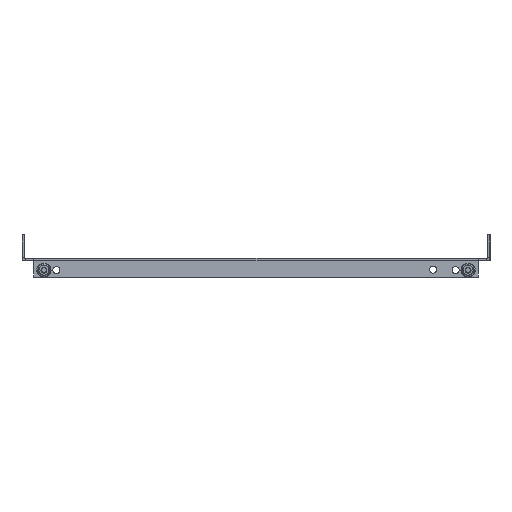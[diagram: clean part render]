
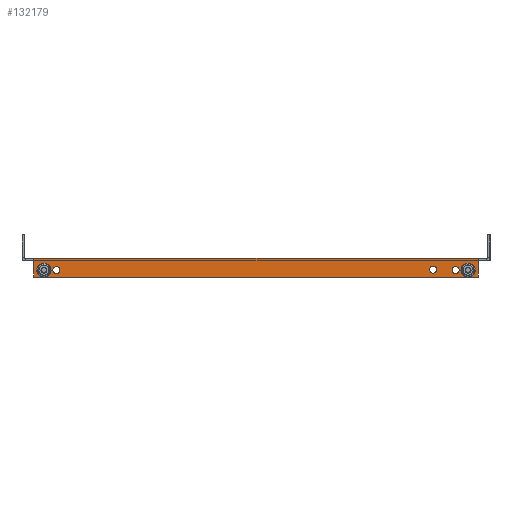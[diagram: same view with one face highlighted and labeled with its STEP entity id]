
A CAD part, left-side view. The second image highlights one B-rep face of the part: STEP entity #132179.
In plain terms, the highlighted planar face has unit normal (-1, 0, 0).
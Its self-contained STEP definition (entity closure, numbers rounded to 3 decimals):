
#115914 = VERTEX_POINT('',#115915);
#115915 = CARTESIAN_POINT('',(-550.,222.5,2.5));
#115921 = EDGE_CURVE('',#115922,#115914,#115924,.T.);
#115922 = VERTEX_POINT('',#115923);
#115923 = CARTESIAN_POINT('',(-550.,-222.5,2.5));
#115924 = LINE('',#115925,#115926);
#115925 = CARTESIAN_POINT('',(-550.,-232.,2.5));
#115926 = VECTOR('',#115927,1.);
#115927 = DIRECTION('',(-0.,1.,-0.));
#132058 = VERTEX_POINT('',#132059);
#132059 = CARTESIAN_POINT('',(-550.,-222.5,-0.6));
#132074 = EDGE_CURVE('',#132058,#115922,#132075,.T.);
#132075 = LINE('',#132076,#132077);
#132076 = CARTESIAN_POINT('',(-550.,-222.5,-0.6));
#132077 = VECTOR('',#132078,1.);
#132078 = DIRECTION('',(0.,-0.,1.));
#132098 = VERTEX_POINT('',#132099);
#132099 = CARTESIAN_POINT('',(-550.,222.5,-0.6));
#132105 = EDGE_CURVE('',#132098,#115914,#132106,.T.);
#132106 = LINE('',#132107,#132108);
#132107 = CARTESIAN_POINT('',(-550.,222.5,0.));
#132108 = VECTOR('',#132109,1.);
#132109 = DIRECTION('',(0.,0.,1.));
#132121 = EDGE_CURVE('',#132122,#132098,#132124,.T.);
#132122 = VERTEX_POINT('',#132123);
#132123 = CARTESIAN_POINT('',(-550.,222.5,-16.5));
#132124 = LINE('',#132125,#132126);
#132125 = CARTESIAN_POINT('',(-550.,222.5,0.));
#132126 = VECTOR('',#132127,1.);
#132127 = DIRECTION('',(0.,-0.,1.));
#132161 = EDGE_CURVE('',#132058,#132162,#132164,.T.);
#132162 = VERTEX_POINT('',#132163);
#132163 = CARTESIAN_POINT('',(-550.,-222.5,-16.5));
#132164 = LINE('',#132165,#132166);
#132165 = CARTESIAN_POINT('',(-550.,-222.5,-16.5));
#132166 = VECTOR('',#132167,1.);
#132167 = DIRECTION('',(0.,-0.,-1.));
#132179 = ADVANCED_FACE('',(#132180,#132191,#132211,#132231,#132242,
    #132253),#132266,.T.);
#132180 = FACE_BOUND('',#132181,.T.);
#132181 = EDGE_LOOP('',(#132182));
#132182 = ORIENTED_EDGE('',*,*,#132183,.T.);
#132183 = EDGE_CURVE('',#132184,#132184,#132186,.T.);
#132184 = VERTEX_POINT('',#132185);
#132185 = CARTESIAN_POINT('',(-550.,-177.5,-12.5));
#132186 = CIRCLE('',#132187,3.5);
#132187 = AXIS2_PLACEMENT_3D('',#132188,#132189,#132190);
#132188 = CARTESIAN_POINT('',(-550.,-177.5,-9.));
#132189 = DIRECTION('',(1.,0.,0.));
#132190 = DIRECTION('',(0.,-0.,-1.));
#132191 = FACE_BOUND('',#132192,.T.);
#132192 = EDGE_LOOP('',(#132193,#132204));
#132193 = ORIENTED_EDGE('',*,*,#132194,.F.);
#132194 = EDGE_CURVE('',#132195,#132197,#132199,.T.);
#132195 = VERTEX_POINT('',#132196);
#132196 = CARTESIAN_POINT('',(-550.,-212.5,-13.));
#132197 = VERTEX_POINT('',#132198);
#132198 = CARTESIAN_POINT('',(-550.,-212.5,-6.));
#132199 = CIRCLE('',#132200,3.5);
#132200 = AXIS2_PLACEMENT_3D('',#132201,#132202,#132203);
#132201 = CARTESIAN_POINT('',(-550.,-212.5,-9.5));
#132202 = DIRECTION('',(-1.,0.,0.));
#132203 = DIRECTION('',(0.,0.,-1.));
#132204 = ORIENTED_EDGE('',*,*,#132205,.F.);
#132205 = EDGE_CURVE('',#132197,#132195,#132206,.T.);
#132206 = CIRCLE('',#132207,3.5);
#132207 = AXIS2_PLACEMENT_3D('',#132208,#132209,#132210);
#132208 = CARTESIAN_POINT('',(-550.,-212.5,-9.5));
#132209 = DIRECTION('',(-1.,0.,0.));
#132210 = DIRECTION('',(0.,0.,-1.));
#132211 = FACE_BOUND('',#132212,.T.);
#132212 = EDGE_LOOP('',(#132213,#132224));
#132213 = ORIENTED_EDGE('',*,*,#132214,.F.);
#132214 = EDGE_CURVE('',#132215,#132217,#132219,.T.);
#132215 = VERTEX_POINT('',#132216);
#132216 = CARTESIAN_POINT('',(-550.,-200.,-13.));
#132217 = VERTEX_POINT('',#132218);
#132218 = CARTESIAN_POINT('',(-550.,-200.,-6.));
#132219 = CIRCLE('',#132220,3.5);
#132220 = AXIS2_PLACEMENT_3D('',#132221,#132222,#132223);
#132221 = CARTESIAN_POINT('',(-550.,-200.,-9.5));
#132222 = DIRECTION('',(-1.,0.,0.));
#132223 = DIRECTION('',(0.,0.,-1.));
#132224 = ORIENTED_EDGE('',*,*,#132225,.F.);
#132225 = EDGE_CURVE('',#132217,#132215,#132226,.T.);
#132226 = CIRCLE('',#132227,3.5);
#132227 = AXIS2_PLACEMENT_3D('',#132228,#132229,#132230);
#132228 = CARTESIAN_POINT('',(-550.,-200.,-9.5));
#132229 = DIRECTION('',(-1.,0.,0.));
#132230 = DIRECTION('',(0.,0.,-1.));
#132231 = FACE_BOUND('',#132232,.T.);
#132232 = EDGE_LOOP('',(#132233));
#132233 = ORIENTED_EDGE('',*,*,#132234,.F.);
#132234 = EDGE_CURVE('',#132235,#132235,#132237,.T.);
#132235 = VERTEX_POINT('',#132236);
#132236 = CARTESIAN_POINT('',(-550.,200.,-6.));
#132237 = CIRCLE('',#132238,3.5);
#132238 = AXIS2_PLACEMENT_3D('',#132239,#132240,#132241);
#132239 = CARTESIAN_POINT('',(-550.,200.,-9.5));
#132240 = DIRECTION('',(-1.,0.,0.));
#132241 = DIRECTION('',(0.,0.,1.));
#132242 = FACE_BOUND('',#132243,.T.);
#132243 = EDGE_LOOP('',(#132244));
#132244 = ORIENTED_EDGE('',*,*,#132245,.F.);
#132245 = EDGE_CURVE('',#132246,#132246,#132248,.T.);
#132246 = VERTEX_POINT('',#132247);
#132247 = CARTESIAN_POINT('',(-550.,212.5,-6.));
#132248 = CIRCLE('',#132249,3.5);
#132249 = AXIS2_PLACEMENT_3D('',#132250,#132251,#132252);
#132250 = CARTESIAN_POINT('',(-550.,212.5,-9.5));
#132251 = DIRECTION('',(-1.,0.,0.));
#132252 = DIRECTION('',(0.,0.,1.));
#132253 = FACE_BOUND('',#132254,.T.);
#132254 = EDGE_LOOP('',(#132255,#132256,#132257,#132258,#132259,#132260)
  );
#132255 = ORIENTED_EDGE('',*,*,#132161,.F.);
#132256 = ORIENTED_EDGE('',*,*,#132074,.T.);
#132257 = ORIENTED_EDGE('',*,*,#115921,.T.);
#132258 = ORIENTED_EDGE('',*,*,#132105,.F.);
#132259 = ORIENTED_EDGE('',*,*,#132121,.F.);
#132260 = ORIENTED_EDGE('',*,*,#132261,.F.);
#132261 = EDGE_CURVE('',#132162,#132122,#132262,.T.);
#132262 = LINE('',#132263,#132264);
#132263 = CARTESIAN_POINT('',(-550.,222.5,-16.5));
#132264 = VECTOR('',#132265,1.);
#132265 = DIRECTION('',(-0.,1.,-0.));
#132266 = PLANE('',#132267);
#132267 = AXIS2_PLACEMENT_3D('',#132268,#132269,#132270);
#132268 = CARTESIAN_POINT('',(-550.,222.5,0.));
#132269 = DIRECTION('',(-1.,0.,0.));
#132270 = DIRECTION('',(0.,0.,1.));
